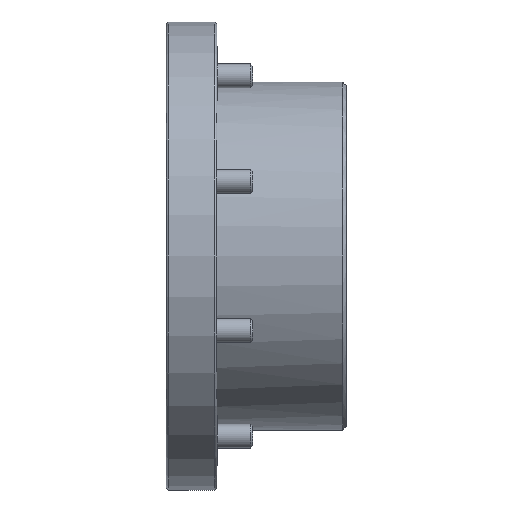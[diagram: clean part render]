
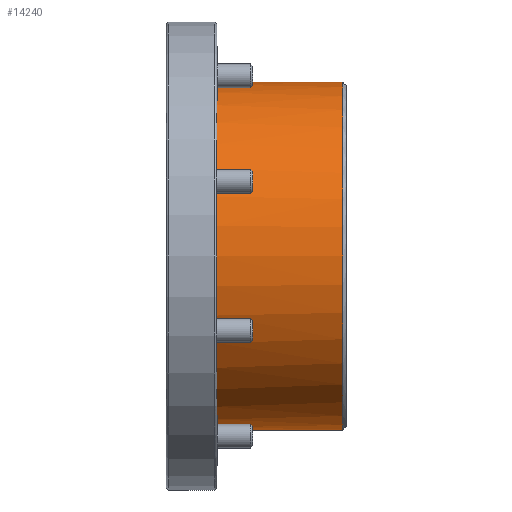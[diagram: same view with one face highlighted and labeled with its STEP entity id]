
A CAD part, left-side view. The second image highlights one B-rep face of the part: STEP entity #14240.
In plain terms, the highlighted cylindrical face has radius 29 mm (diameter 58 mm), a partial arc.
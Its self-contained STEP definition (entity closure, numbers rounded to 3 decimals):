
#617 = DIRECTION ( 'NONE',  ( 0., 1., 0. ) ) ;
#2326 = ORIENTED_EDGE ( 'NONE', *, *, #16504, .T. ) ;
#2333 = CARTESIAN_POINT ( 'NONE',  ( -3.765, 19.288, 78. ) ) ;
#2551 = LINE ( 'NONE', #3471, #4673 ) ;
#2565 = AXIS2_PLACEMENT_3D ( 'NONE', #6212, #7993, #4735 ) ;
#3088 = DIRECTION ( 'NONE',  ( 0., 1., 0. ) ) ;
#3119 = DIRECTION ( 'NONE',  ( 0., 0., 1. ) ) ;
#3401 = EDGE_LOOP ( 'NONE', ( #10119, #12244, #13147, #2326, #4713, #7616 ) ) ;
#3471 = CARTESIAN_POINT ( 'NONE',  ( -3.765, 27.788, 107. ) ) ;
#3627 = FACE_OUTER_BOUND ( 'NONE', #3401, .T. ) ;
#4673 = VECTOR ( 'NONE', #13951, 1000. ) ;
#4691 = EDGE_CURVE ( 'NONE', #8653, #14908, #2551, .T. ) ;
#4713 = ORIENTED_EDGE ( 'NONE', *, *, #4691, .T. ) ;
#4735 = DIRECTION ( 'NONE',  ( 0., 0., -1. ) ) ;
#4761 = CIRCLE ( 'NONE', #2565, 29. ) ;
#4762 = CARTESIAN_POINT ( 'NONE',  ( -3.765, 19.288, 107. ) ) ;
#5084 = EDGE_CURVE ( 'NONE', #7759, #17492, #12197, .T. ) ;
#6205 = DIRECTION ( 'NONE',  ( 0., 0., 1. ) ) ;
#6212 = CARTESIAN_POINT ( 'NONE',  ( -3.765, -1.712, 78. ) ) ;
#7039 = CARTESIAN_POINT ( 'NONE',  ( -3.765, -1.712, 78. ) ) ;
#7616 = ORIENTED_EDGE ( 'NONE', *, *, #9463, .F. ) ;
#7675 = AXIS2_PLACEMENT_3D ( 'NONE', #7039, #617, #8788 ) ;
#7734 = CARTESIAN_POINT ( 'NONE',  ( -3.765, -1.712, 107. ) ) ;
#7759 = VERTEX_POINT ( 'NONE', #13375 ) ;
#7761 = CARTESIAN_POINT ( 'NONE',  ( -3.765, -1.712, 78. ) ) ;
#7894 = CARTESIAN_POINT ( 'NONE',  ( -3.765, 27.788, 49. ) ) ;
#7993 = DIRECTION ( 'NONE',  ( 0., 1., 0. ) ) ;
#8479 = AXIS2_PLACEMENT_3D ( 'NONE', #17038, #13194, #6205 ) ;
#8625 = AXIS2_PLACEMENT_3D ( 'NONE', #2333, #3088, #3119 ) ;
#8653 = VERTEX_POINT ( 'NONE', #7734 ) ;
#8788 = DIRECTION ( 'NONE',  ( 0., 0., -1. ) ) ;
#9060 = AXIS2_PLACEMENT_3D ( 'NONE', #7761, #17400, #9138 ) ;
#9138 = DIRECTION ( 'NONE',  ( 0., 0., -1. ) ) ;
#9272 = CIRCLE ( 'NONE', #9060, 29. ) ;
#9409 = EDGE_CURVE ( 'NONE', #7759, #13604, #10639, .T. ) ;
#9463 = EDGE_CURVE ( 'NONE', #17492, #14908, #11284, .T. ) ;
#9780 = CARTESIAN_POINT ( 'NONE',  ( -3.765, 19.288, 49. ) ) ;
#10119 = ORIENTED_EDGE ( 'NONE', *, *, #5084, .F. ) ;
#10639 = CIRCLE ( 'NONE', #7675, 29. ) ;
#11284 = CIRCLE ( 'NONE', #8625, 29. ) ;
#12197 = LINE ( 'NONE', #7894, #12665 ) ;
#12244 = ORIENTED_EDGE ( 'NONE', *, *, #9409, .T. ) ;
#12665 = VECTOR ( 'NONE', #17085, 1000. ) ;
#13147 = ORIENTED_EDGE ( 'NONE', *, *, #13926, .T. ) ;
#13194 = DIRECTION ( 'NONE',  ( 0., 1., 0. ) ) ;
#13375 = CARTESIAN_POINT ( 'NONE',  ( -3.765, -1.712, 49. ) ) ;
#13604 = VERTEX_POINT ( 'NONE', #14721 ) ;
#13926 = EDGE_CURVE ( 'NONE', #13604, #14021, #4761, .T. ) ;
#13951 = DIRECTION ( 'NONE',  ( 0., 1., 0. ) ) ;
#14021 = VERTEX_POINT ( 'NONE', #17126 ) ;
#14240 = ADVANCED_FACE ( 'NONE', ( #3627 ), #16119, .T. ) ;
#14721 = CARTESIAN_POINT ( 'NONE',  ( -5.899, -1.712, 49.079 ) ) ;
#14908 = VERTEX_POINT ( 'NONE', #4762 ) ;
#16119 = CYLINDRICAL_SURFACE ( 'NONE', #8479, 29. ) ;
#16504 = EDGE_CURVE ( 'NONE', #14021, #8653, #9272, .T. ) ;
#17038 = CARTESIAN_POINT ( 'NONE',  ( -3.765, 27.788, 78. ) ) ;
#17085 = DIRECTION ( 'NONE',  ( 0., 1., 0. ) ) ;
#17126 = CARTESIAN_POINT ( 'NONE',  ( -5.899, -1.712, 106.921 ) ) ;
#17400 = DIRECTION ( 'NONE',  ( 0., 1., 0. ) ) ;
#17492 = VERTEX_POINT ( 'NONE', #9780 ) ;
